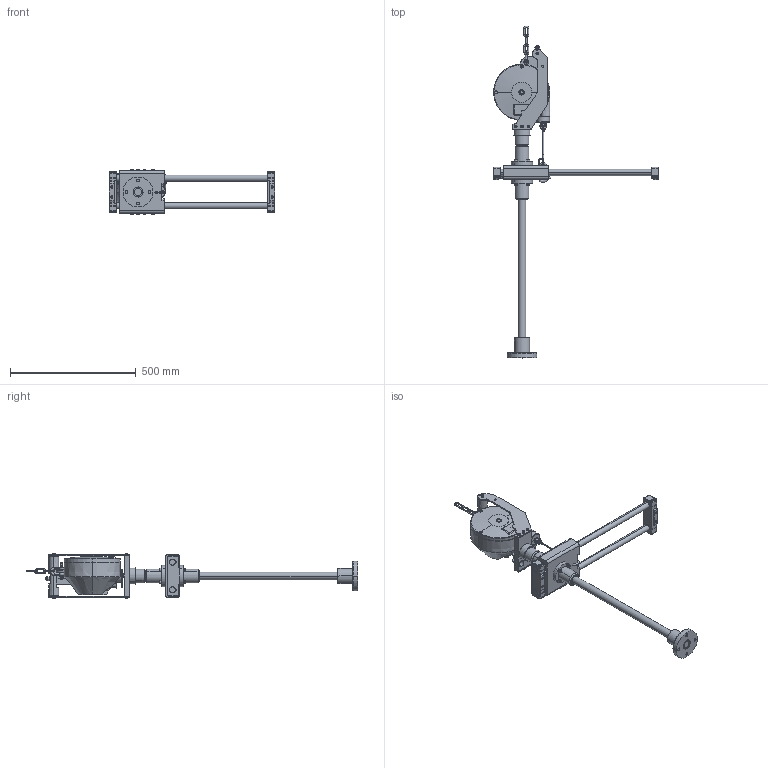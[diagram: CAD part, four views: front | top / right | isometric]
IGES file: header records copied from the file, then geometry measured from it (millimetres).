
Start section:  PTC IGES file: 6158116600_dim.igs
Global section: file name: 6158116600_dim.igs; native system: Creo Parametric by PTC Inc.; preprocessor: 2021072; author: S00000450; organization: Unknown; date: 20211109.154648; units: millimetre
Bounding box: 660 x 1322.29 x 182 mm (x, y, z)
Surface area: 919924.2 mm2 (no closed solid volume)
Topology: 0 solids, 0 shells, 982 faces, 6002 edges, 5954 vertices
Faces by surface type: revolution 620, bspline 362
